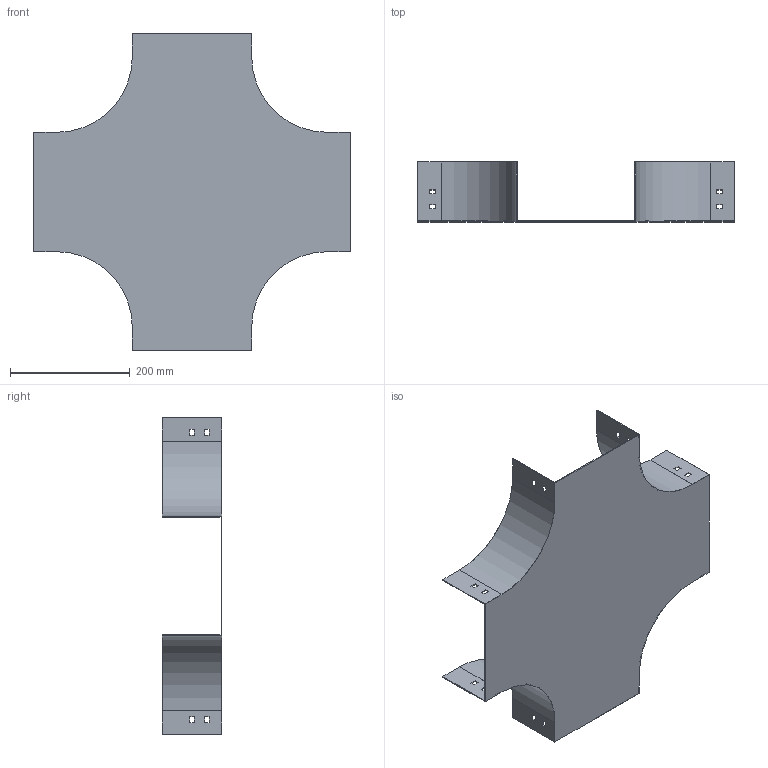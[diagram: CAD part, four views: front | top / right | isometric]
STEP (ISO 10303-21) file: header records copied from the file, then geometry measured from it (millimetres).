
FILE_DESCRIPTION (( 'STEP AP214' ), '1' );
FILE_NAME ('PC_201.step', '2025-07-16T09:22:05', ( '' ), ( '' ), 'SwSTEP 2.0', 'SolidWorks 2023', '' );
FILE_SCHEMA (( 'AUTOMOTIVE_DESIGN' ));
Length unit declared in the file: millimetre
Products named in the file (1): PC_201
Bounding box: 530 x 100 x 530 mm (x, y, z)
Volume: 440457.8 mm3; surface area: 592133.1 mm2
Topology: 1 solids, 1 shells, 98 faces, 288 edges, 192 vertices
Faces by surface type: plane 90, cylinder 8
Entity records: 3295 total; most frequent: CARTESIAN_POINT 579, ORIENTED_EDGE 576, DIRECTION 502, EDGE_CURVE 288, VECTOR 272, LINE 272, VERTEX_POINT 192, EDGE_LOOP 130
